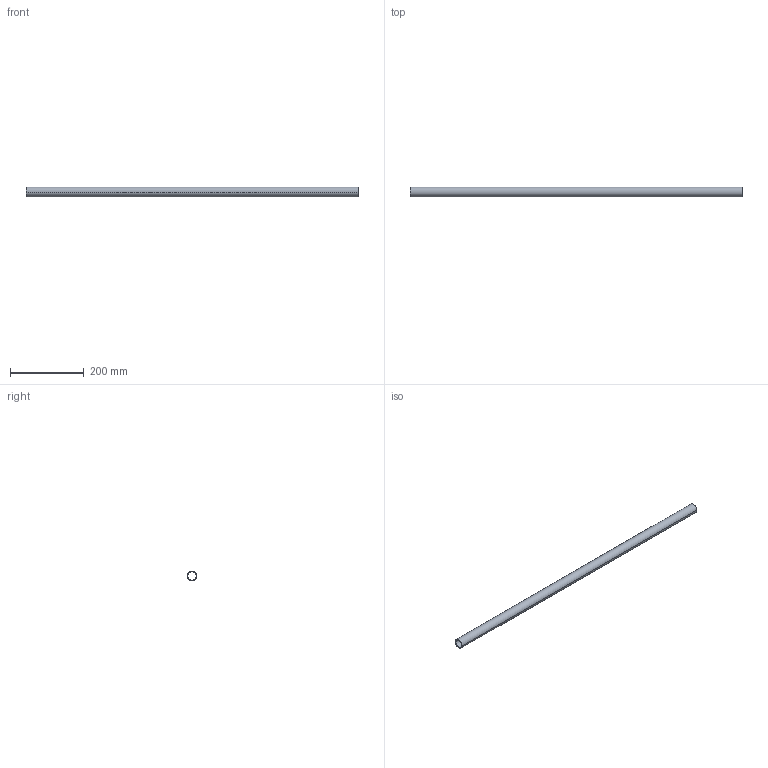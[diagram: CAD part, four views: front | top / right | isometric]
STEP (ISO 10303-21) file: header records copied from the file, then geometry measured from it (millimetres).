
FILE_DESCRIPTION (( 'STEP AP214' ), '1' );
FILE_NAME ('CCJ029-REP.214 - LISSE PLANCHER INFERIEUR C3-C4.STEP', '2024-01-10T14:57:32', ( '' ), ( '' ), 'SwSTEP 2.0', 'SolidWorks 2021', '' );
FILE_SCHEMA (( 'AUTOMOTIVE_DESIGN' ));
Length unit declared in the file: millimetre
Products named in the file (1): CCJ029-REP.214 - LISSE PLANCHER INFERIEUR C3-C4
Bounding box: 900 x 26.9 x 26.9 mm (x, y, z)
Volume: 159976.2 mm3; surface area: 139465.2 mm2
Topology: 1 solids, 1 shells, 6 faces, 12 edges, 8 vertices
Faces by surface type: cylinder 4, plane 2
Entity records: 202 total; most frequent: DIRECTION 34, CARTESIAN_POINT 27, ORIENTED_EDGE 24, AXIS2_PLACEMENT_3D 15, EDGE_CURVE 12, EDGE_LOOP 8, CIRCLE 8, VERTEX_POINT 8
